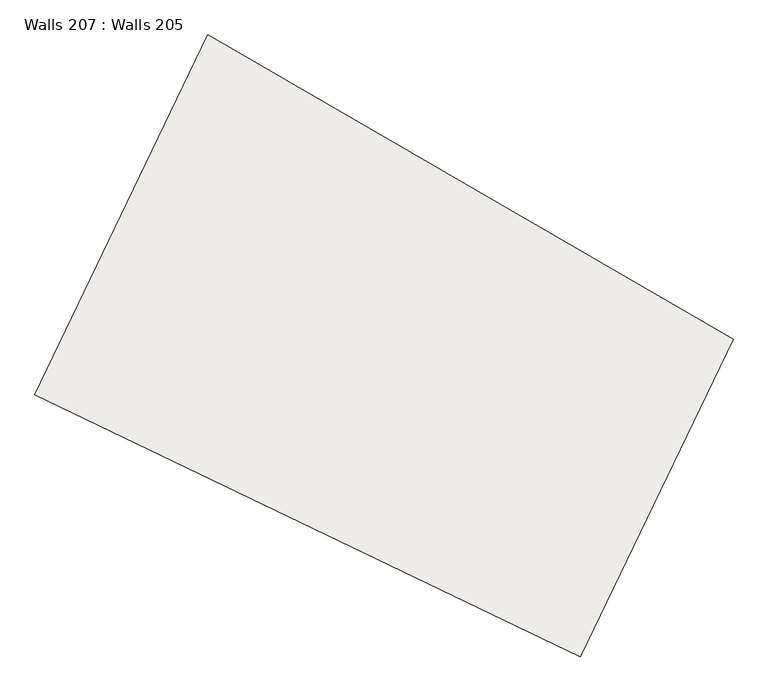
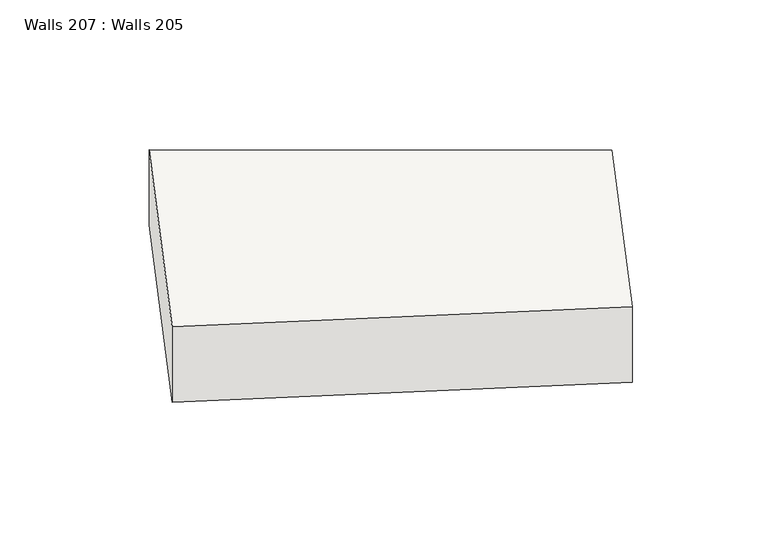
"""IFC4 building model written with IfcOpenShell, lengths in millimetres: slab geometry, Walls 207 : Walls 205."""

from ifc_helpers import new_model, si_unit, origin, place, context, project, spatial, faceted_brep, source, transform, mapped, element, save


def walls_207_walls_205_da653d9a(model_context):
    return source(origin(), model_context, "Body", "Brep", [
        faceted_brep([(431463.6231366, 385065.6757319, 647130.8931992), (431463.6231366, 385065.6757319, 646430.8931992), (434618.5512503, 383550.278557, 646430.8931992), (434618.5512503, 383550.278557, 647130.8931992), (435501.4796173, 385388.4603719, 647153.9375874), (432463.6399233, 387147.6256844, 647156.9935895), (435501.4796173, 385388.4603719, 646453.9375874), (432463.6399233, 387147.6256844, 646456.9935895)], [[[0, 1, 2, 3]], [[0, 3, 4, 5]], [[5, 4, 6, 7]], [[3, 2, 6, 4]], [[2, 1, 7, 6]], [[1, 0, 5, 7]]]),
    ])


if __name__ == "__main__":
    model = new_model("IFC4")
    model_context = context("Model", 3, world=origin())
    ifc_project = project(units=[si_unit("LENGTHUNIT", "METRE", prefix="MILLI")], contexts=[model_context])
    site = spatial("IfcSite", under=ifc_project)
    building = spatial("IfcBuilding", under=site)
    placement = place(None, origin())
    walls_207_walls_205_shape = walls_207_walls_205_da653d9a(model_context)
    element("IfcSlab", 1, ObjectType="Walls 207 : Walls 205", at=placement, inside=building, context=model_context, shape_type="MappedRepresentation", body=[
        mapped(walls_207_walls_205_shape, transform((0.0, 0.0, 0.0), x_axis=(1.0, 0.0, 0.0), y_axis=(0.0, 1.0, 0.0), z_axis=(0.0, 0.0, 1.0))),
    ])
    save(model, "model.ifc")
